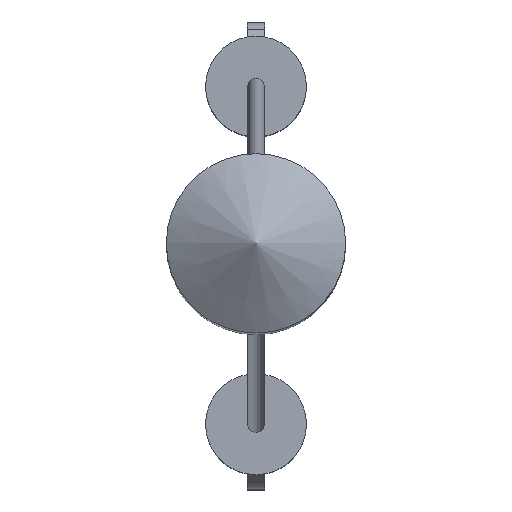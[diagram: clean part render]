
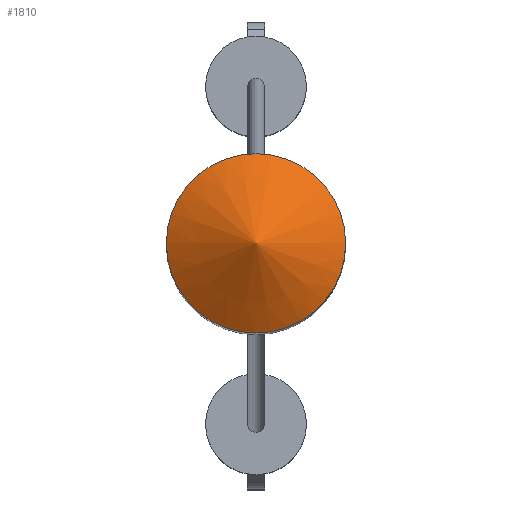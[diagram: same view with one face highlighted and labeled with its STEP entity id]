
A CAD part, top view. The second image highlights one B-rep face of the part: STEP entity #1810.
In plain terms, the highlighted conical face has half-angle 60 degrees and reference radius 4 mm.
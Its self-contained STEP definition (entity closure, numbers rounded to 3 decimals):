
#101 = CARTESIAN_POINT ( 'NONE',  ( 0., -7.085, 56.558 ) ) ;
#220 = ORIENTED_EDGE ( 'NONE', *, *, #1725, .T. ) ;
#275 = DIRECTION ( 'NONE',  ( 1., 0., 0. ) ) ;
#505 = EDGE_LOOP ( 'NONE', ( #220 ) ) ;
#580 = AXIS2_PLACEMENT_3D ( 'NONE', #1017, #713, #275 ) ;
#713 = DIRECTION ( 'NONE',  ( 0., 0., 1. ) ) ;
#863 = CONICAL_SURFACE ( 'NONE', #1110, 4., 1.047 ) ;
#943 = DIRECTION ( 'NONE',  ( 0., 0., -1. ) ) ;
#1017 = CARTESIAN_POINT ( 'NONE',  ( 0., -7.085, 56.558 ) ) ;
#1110 = AXIS2_PLACEMENT_3D ( 'NONE', #101, #943, #1933 ) ;
#1422 = CIRCLE ( 'NONE', #580, 4. ) ;
#1440 = FACE_OUTER_BOUND ( 'NONE', #505, .T. ) ;
#1602 = VERTEX_POINT ( 'NONE', #1736 ) ;
#1725 = EDGE_CURVE ( 'NONE', #1602, #1602, #1422, .T. ) ;
#1736 = CARTESIAN_POINT ( 'NONE',  ( 4., -7.085, 56.558 ) ) ;
#1810 = ADVANCED_FACE ( 'NONE', ( #1440 ), #863, .T. ) ;
#1933 = DIRECTION ( 'NONE',  ( -1., 0., 0. ) ) ;
